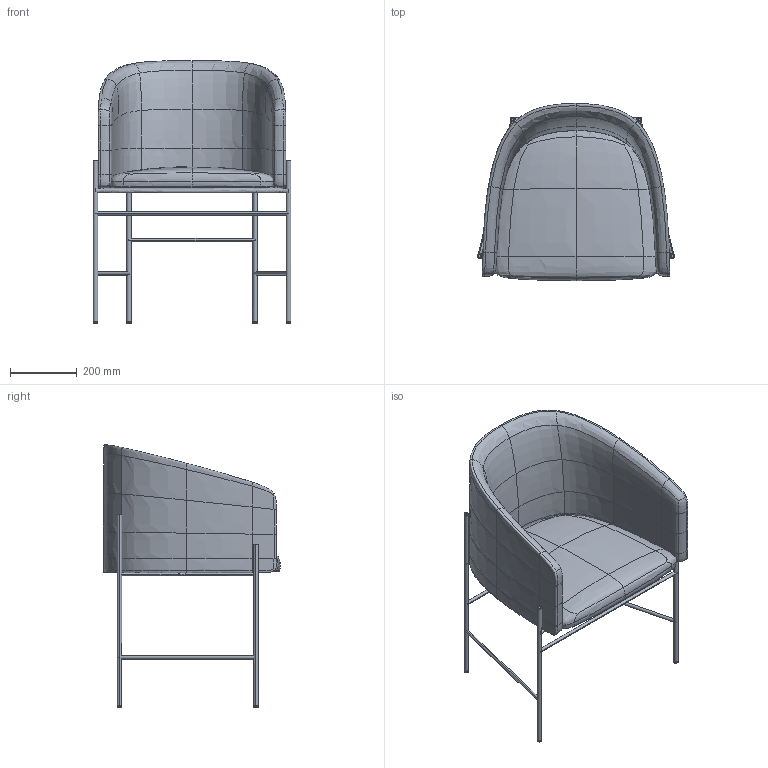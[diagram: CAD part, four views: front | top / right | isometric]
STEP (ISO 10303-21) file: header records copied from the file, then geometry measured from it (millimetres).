
FILE_DESCRIPTION(/* description */ (''),/* implementation_level */ '2;1');
FILE_NAME(/* name */ 'Covent Chair ',/* time_stamp */ '2016-10-19T09:01:28+02:00',/* author */ (''),/* organization */ (''),/* preprocessor_version */ 'ST-DEVELOPER v15',/* originating_system */ '',/* authorisation */ '');
FILE_SCHEMA (('AUTOMOTIVE_DESIGN'));
Length unit declared in the file: millimetre
Products named in the file (1): Document
Bounding box: 594 x 531.86 x 789.25 mm (x, y, z)
Volume: 32197199.8 mm3; surface area: 1671283 mm2
Topology: 21 solids, 21 shells, 276 faces, 536 edges, 302 vertices
Faces by surface type: bspline 238, plane 38
Entity records: 30420 total; most frequent: CARTESIAN_POINT 26778, ORIENTED_EDGE 1072, EDGE_CURVE 536, B_SPLINE_CURVE_WITH_KNOTS 362, VERTEX_POINT 302, EDGE_LOOP 286, ADVANCED_FACE 276, FACE_OUTER_BOUND 276
